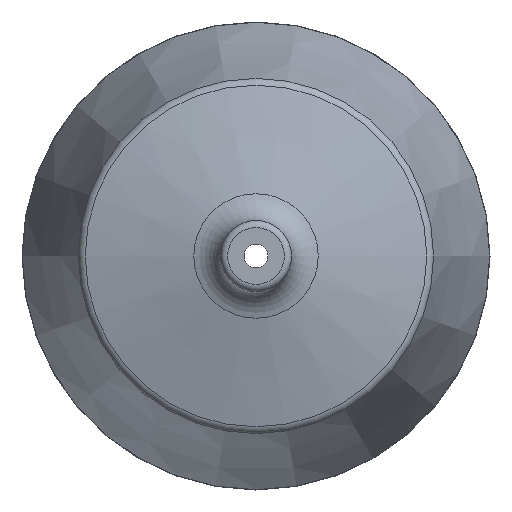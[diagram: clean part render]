
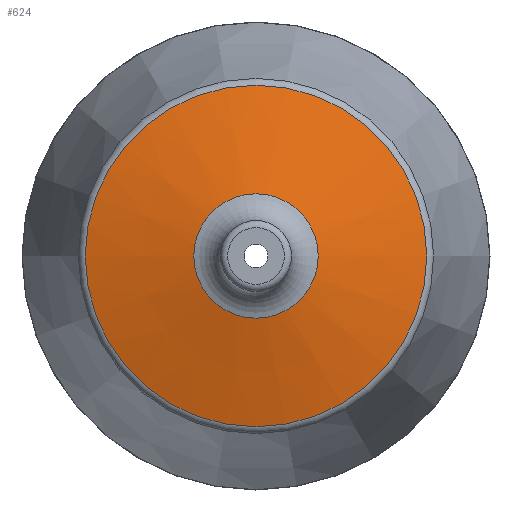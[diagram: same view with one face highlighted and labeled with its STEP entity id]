
A CAD part, front view. The second image highlights one B-rep face of the part: STEP entity #624.
In plain terms, the highlighted conical face has half-angle 75.851 degrees and reference radius 44.75 mm.
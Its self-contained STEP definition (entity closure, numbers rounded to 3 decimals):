
#27=CONICAL_SURFACE('',#729,44.75,1.324);
#61=FACE_OUTER_BOUND('',#93,.T.);
#93=EDGE_LOOP('',(#518,#519,#520,#521,#522,#523,#524,#525));
#116=LINE('',#1161,#130);
#130=VECTOR('',#938,44.75);
#183=CIRCLE('',#721,26.333);
#184=CIRCLE('',#722,26.333);
#185=CIRCLE('',#723,26.333);
#190=CIRCLE('',#730,72.231);
#191=CIRCLE('',#731,72.231);
#192=CIRCLE('',#732,72.231);
#264=VERTEX_POINT('',#1138);
#265=VERTEX_POINT('',#1140);
#266=VERTEX_POINT('',#1142);
#270=VERTEX_POINT('',#1155);
#271=VERTEX_POINT('',#1156);
#272=VERTEX_POINT('',#1158);
#353=EDGE_CURVE('',#264,#265,#183,.T.);
#354=EDGE_CURVE('',#265,#266,#184,.T.);
#355=EDGE_CURVE('',#266,#264,#185,.T.);
#361=EDGE_CURVE('',#270,#271,#190,.T.);
#362=EDGE_CURVE('',#272,#270,#191,.T.);
#363=EDGE_CURVE('',#271,#272,#192,.T.);
#364=EDGE_CURVE('',#271,#265,#116,.T.);
#518=ORIENTED_EDGE('',*,*,#361,.F.);
#519=ORIENTED_EDGE('',*,*,#362,.F.);
#520=ORIENTED_EDGE('',*,*,#363,.F.);
#521=ORIENTED_EDGE('',*,*,#364,.T.);
#522=ORIENTED_EDGE('',*,*,#353,.F.);
#523=ORIENTED_EDGE('',*,*,#355,.F.);
#524=ORIENTED_EDGE('',*,*,#354,.F.);
#525=ORIENTED_EDGE('',*,*,#364,.F.);
#624=ADVANCED_FACE('',(#61),#27,.T.);
#721=AXIS2_PLACEMENT_3D('',#1141,#913,#914);
#722=AXIS2_PLACEMENT_3D('',#1143,#915,#916);
#723=AXIS2_PLACEMENT_3D('',#1144,#917,#918);
#729=AXIS2_PLACEMENT_3D('',#1154,#930,#931);
#730=AXIS2_PLACEMENT_3D('',#1157,#932,#933);
#731=AXIS2_PLACEMENT_3D('',#1159,#934,#935);
#732=AXIS2_PLACEMENT_3D('',#1160,#936,#937);
#913=DIRECTION('center_axis',(0.,-1.,0.));
#914=DIRECTION('ref_axis',(1.,0.,0.));
#915=DIRECTION('center_axis',(0.,-1.,0.));
#916=DIRECTION('ref_axis',(1.,0.,0.));
#917=DIRECTION('center_axis',(0.,-1.,0.));
#918=DIRECTION('ref_axis',(1.,0.,0.));
#930=DIRECTION('center_axis',(0.,1.,0.));
#931=DIRECTION('ref_axis',(-1.,0.,0.));
#932=DIRECTION('center_axis',(0.,1.,0.));
#933=DIRECTION('ref_axis',(1.,0.,0.));
#934=DIRECTION('center_axis',(0.,1.,0.));
#935=DIRECTION('ref_axis',(1.,0.,0.));
#936=DIRECTION('center_axis',(0.,1.,0.));
#937=DIRECTION('ref_axis',(1.,0.,0.));
#938=DIRECTION('',(-0.97,-0.244,0.));
#1138=CARTESIAN_POINT('',(0.,85.857,-26.333));
#1140=CARTESIAN_POINT('',(26.333,85.857,0.));
#1141=CARTESIAN_POINT('Origin',(0.,85.857,0.));
#1142=CARTESIAN_POINT('',(-26.333,85.857,0.));
#1143=CARTESIAN_POINT('Origin',(0.,85.857,0.));
#1144=CARTESIAN_POINT('Origin',(0.,85.857,0.));
#1154=CARTESIAN_POINT('Origin',(0.,90.5,0.));
#1155=CARTESIAN_POINT('',(-72.231,97.428,0.));
#1156=CARTESIAN_POINT('',(72.231,97.428,0.));
#1157=CARTESIAN_POINT('Origin',(0.,97.428,0.));
#1158=CARTESIAN_POINT('',(0.,97.428,-72.231));
#1159=CARTESIAN_POINT('Origin',(0.,97.428,0.));
#1160=CARTESIAN_POINT('Origin',(0.,97.428,0.));
#1161=CARTESIAN_POINT('',(44.75,90.5,0.));
